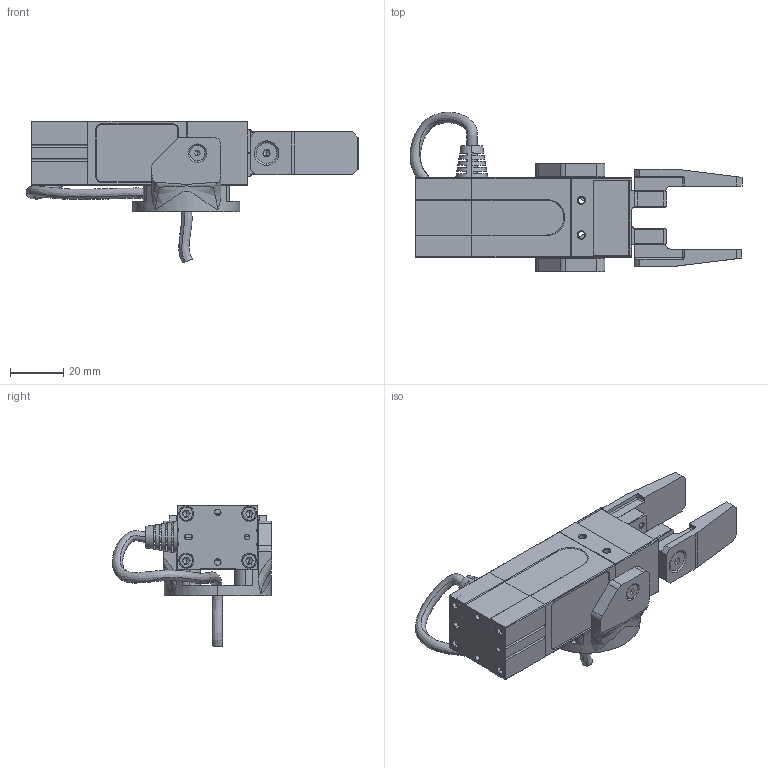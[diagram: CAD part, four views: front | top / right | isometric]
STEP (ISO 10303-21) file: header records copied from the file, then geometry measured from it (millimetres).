
FILE_DESCRIPTION (( 'STEP AP214' ), '1' );
FILE_NAME ('astorino_electric_gripper.STEP', '2024-05-02T08:23:00', ( '' ), ( '' ), 'SwSTEP 2.0', 'SolidWorks 2021', '' );
FILE_SCHEMA (( 'AUTOMOTIVE_DESIGN' ));
Length unit declared in the file: millimetre
Products named in the file (1): astorino_electric_gripper
Bounding box: 124.22 x 59.62 x 53.07 mm (x, y, z)
Surface area: 24231.7 mm2 (no closed solid volume)
Topology: 0 solids, 23 shells, 420 faces, 1314 edges, 866 vertices
Faces by surface type: plane 253, cylinder 93, cone 50, bspline 12, torus 8, sphere 4
Entity records: 21031 total; most frequent: CARTESIAN_POINT 4838, DIRECTION 2453, ORIENTED_EDGE 2189, EDGE_CURVE 1296, VERTEX_POINT 866, VECTOR 859, LINE 859, AXIS2_PLACEMENT_3D 797
